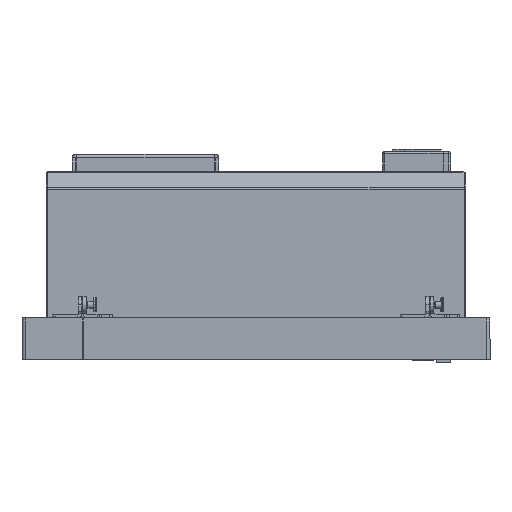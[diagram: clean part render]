
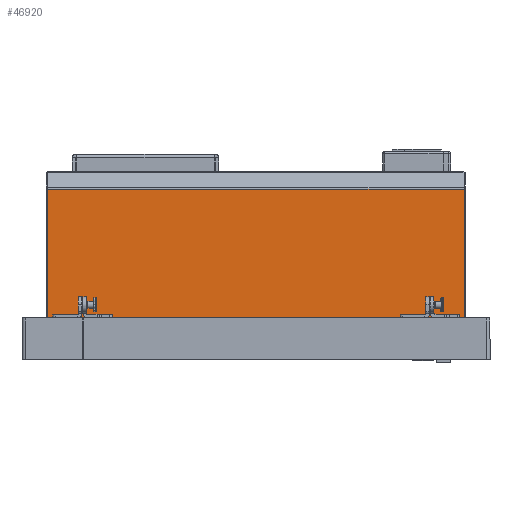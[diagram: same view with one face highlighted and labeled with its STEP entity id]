
A CAD part, left-side view. The second image highlights one B-rep face of the part: STEP entity #46920.
In plain terms, the highlighted planar face has unit normal (-1, 0, 0).
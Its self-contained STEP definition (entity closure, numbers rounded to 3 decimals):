
#5478=FACE_OUTER_BOUND('',#8161,.T.);
#8161=EDGE_LOOP('',(#36571,#36572,#36573,#36574));
#11528=LINE('',#75124,#15516);
#11529=LINE('',#75126,#15517);
#11530=LINE('',#75128,#15518);
#11531=LINE('',#75129,#15519);
#15516=VECTOR('',#59508,10.);
#15517=VECTOR('',#59509,10.);
#15518=VECTOR('',#59510,10.);
#15519=VECTOR('',#59511,10.);
#20016=VERTEX_POINT('',#75122);
#20017=VERTEX_POINT('',#75123);
#20018=VERTEX_POINT('',#75125);
#20019=VERTEX_POINT('',#75127);
#25792=EDGE_CURVE('',#20016,#20017,#11528,.T.);
#25793=EDGE_CURVE('',#20017,#20018,#11529,.T.);
#25794=EDGE_CURVE('',#20018,#20019,#11530,.T.);
#25795=EDGE_CURVE('',#20019,#20016,#11531,.T.);
#36571=ORIENTED_EDGE('',*,*,#25792,.T.);
#36572=ORIENTED_EDGE('',*,*,#25793,.T.);
#36573=ORIENTED_EDGE('',*,*,#25794,.T.);
#36574=ORIENTED_EDGE('',*,*,#25795,.T.);
#42854=PLANE('',#50562);
#46920=ADVANCED_FACE('',(#5478),#42854,.F.);
#50562=AXIS2_PLACEMENT_3D('',#75121,#59506,#59507);
#59506=DIRECTION('center_axis',(1.,0.,
0.));
#59507=DIRECTION('ref_axis',(0.,0.,-1.));
#59508=DIRECTION('',(0.,-1.,0.));
#59509=DIRECTION('',(0.,0.,1.));
#59510=DIRECTION('',(0.,1.,0.));
#59511=DIRECTION('',(0.,0.,-1.));
#75121=CARTESIAN_POINT('Origin',(-199.211,-66.199,-105.836));
#75122=CARTESIAN_POINT('',(-199.263,172.801,-130.737));
#75123=CARTESIAN_POINT('',(-199.186,-183.699,-130.737));
#75124=CARTESIAN_POINT('',(-199.205,-94.574,-130.737));
#75125=CARTESIAN_POINT('',(-199.186,-183.699,-20.848));
#75126=CARTESIAN_POINT('',(-199.186,-183.699,-104.647));
#75127=CARTESIAN_POINT('',(-199.263,172.801,-20.848));
#75128=CARTESIAN_POINT('',(-199.224,-5.449,-20.848));
#75129=CARTESIAN_POINT('',(-199.263,172.801,-104.647));
